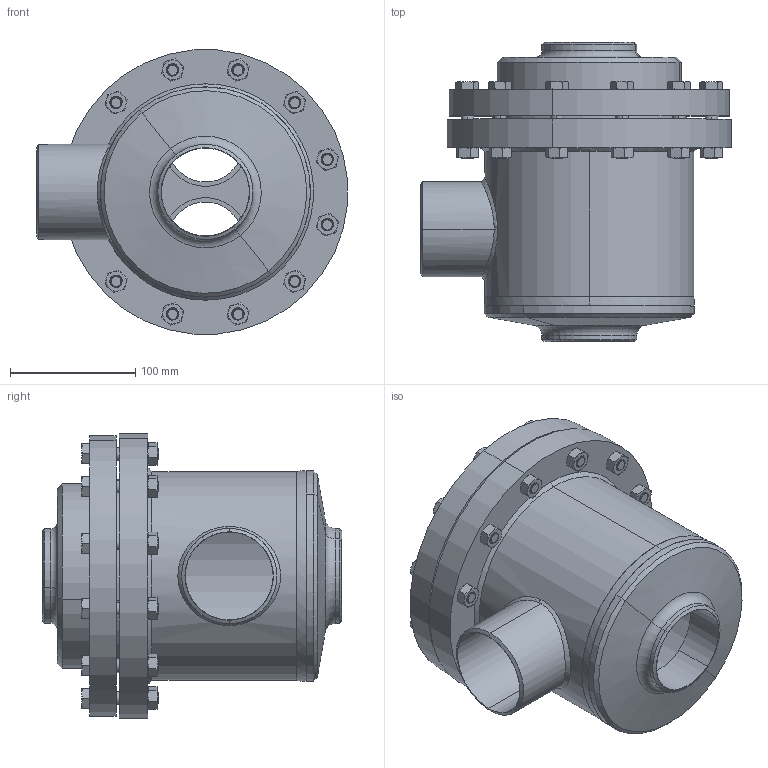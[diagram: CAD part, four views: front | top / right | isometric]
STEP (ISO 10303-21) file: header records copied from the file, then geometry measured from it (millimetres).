
FILE_DESCRIPTION (( 'STEP AP214' ), '1' );
FILE_NAME ('TR47000B17-DN65_R1_PS25.STEP', '2005-08-10T11:03:38', ( 'Herr Grams' ), ( 'AWP GmbH' ), 'SwSTEP 2.0', 'SolidWorks 2002296', '' );
FILE_SCHEMA (( 'AUTOMOTIVE_DESIGN' ));
Length unit declared in the file: millimetre
Products named in the file (16): TR47000B17-DN65_R1_PS25; loser Flansch47000E17_DN65-80_PS40_Standard; Deckel47000B17_DN65_PS25_R1_Standard; Führungsring47050-17-DN65-80_Standard; Geh-kpl47000B17-DN65_PS25_R1_Standard; Boden47000E_DN65-100_PS40_DN 65; Geh47000E17_DN65_PS40_R1_Standard; RohrstutzA47000E17-DN65_PS40_R1_Standard; Kopfring47000E17_DN65-80_PS40_Standard; Kehlnaht17-3_Standard; bead17-1_Standard; Kehlnaht17-2_Standard; bead17-4_Standard; Andruckplatte47050-17-DN65-80_Standard; Sechskantmutter-DIN934_M10; Sechskantschraube-DIN933-M10x55_M10x55
Assembly tree (37 placements, depth 3):
  TR47000B17-DN65_R1_PS25
    Geh-kpl47000B17-DN65_PS25_R1_Standard
      Geh47000E17_DN65_PS40_R1_Standard
      Kopfring47000E17_DN65-80_PS40_Standard
      bead17-4_Standard
      bead17-1_Standard
      Boden47000E_DN65-100_PS40_DN 65
      Kehlnaht17-3_Standard
      Kehlnaht17-2_Standard
      RohrstutzA47000E17-DN65_PS40_R1_Standard
    Sechskantschraube-DIN933-M10x55_M10x55  x12
    Führungsring47050-17-DN65-80_Standard
    Sechskantmutter-DIN934_M10  x12
    loser Flansch47000E17_DN65-80_PS40_Standard
    Deckel47000B17_DN65_PS25_R1_Standard
    Andruckplatte47050-17-DN65-80_Standard
Bounding box: 248.57 x 239.5 x 227.13 mm (x, y, z)
Volume: 2262912.6 mm3; surface area: 625719.3 mm2
Topology: 36 solids, 36 shells, 1220 faces, 3052 edges, 1926 vertices
Faces by surface type: cylinder 550, cone 382, plane 248, bspline 32, torus 8
Entity records: 25807 total; most frequent: CARTESIAN_POINT 18308, DIRECTION 1449, ORIENTED_EDGE 1352, EDGE_CURVE 676, AXIS2_PLACEMENT_3D 622, VERTEX_POINT 430, EDGE_LOOP 376, CIRCLE 306
